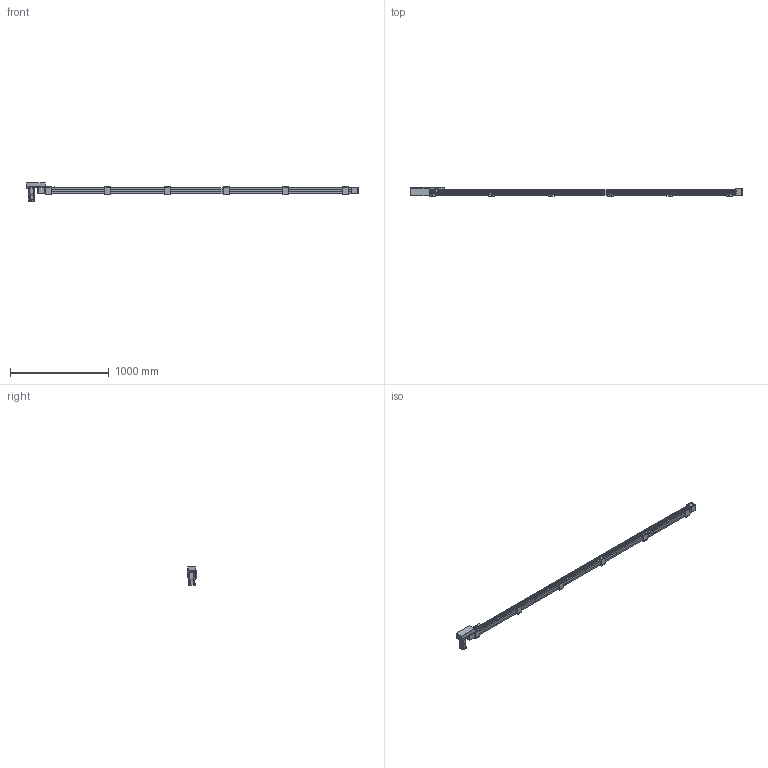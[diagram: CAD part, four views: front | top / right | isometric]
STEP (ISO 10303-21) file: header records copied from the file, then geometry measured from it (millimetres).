
FILE_DESCRIPTION(/* description */ ('STEP AP214'),/* implementation_level */ '2;1');
FILE_NAME(/* name */ 'SK60-P13-S2950-R-T40-C1-N(0)',/* time_stamp */ '2023-04-06T04:29:05+02:00',/* author */ ('License CC BY-ND 4.0'),/* organization */ ('CADENAS'),/* preprocessor_version */ 'ST-DEVELOPER v19.3',/* originating_system */ 'PARTsolutions',/* authorisation */ ' ');
FILE_SCHEMA (('AUTOMOTIVE_DESIGN {1 0 10303 214 3 1 1}'));
Length unit declared in the file: millimetre
Products named in the file (10): SK60-P13-S2950-R-T40-C1-N(0); PSC140-sensor; SK60-S450_seat; SK60-S450-BL-C1_slider; SK60_body3; SK60_body6; SK60-BL_body2; T40-p1; SK60-R_fb; SK60-S2950-R-C1_body
Assembly tree (20 placements, depth 2):
  SK60-P13-S2950-R-T40-C1-N(0)
    PSC140-sensor  x3
    SK60-S450_seat  x6
    SK60-S450-BL-C1_slider
    SK60_body3  x3
    SK60_body6  x2
    SK60-BL_body2  x2
    T40-p1
    SK60-R_fb
    SK60-S2950-R-C1_body
Bounding box: 3370.5 x 90 x 189.7 mm (x, y, z)
Volume: 12228159.8 mm3; surface area: 1425853.9 mm2
Topology: 20 solids, 20 shells, 986 faces, 2440 edges, 1605 vertices
Faces by surface type: plane 620, cylinder 326, cone 38, torus 2
Full cylindrical faces by diameter (mm): 2.8 x3, 3.3 x4, 4 x2, 4.5 x30, 4.6 x3, 4.917 x32, 5 x6, 5.478 x4, 5.5 x35, 6.5 x12, 7 x2, 8 x4, 8.5 x4, 9.988 x4, 10 x24, 14 x1, 47 x3, 50 x2
Entity records: 18687 total; most frequent: DIRECTION 3192, CARTESIAN_POINT 3154, ORIENTED_EDGE 2940, EDGE_CURVE 1470, AXIS2_PLACEMENT_3D 1072, LINE 1048, VECTOR 1048, VERTEX_POINT 1034
